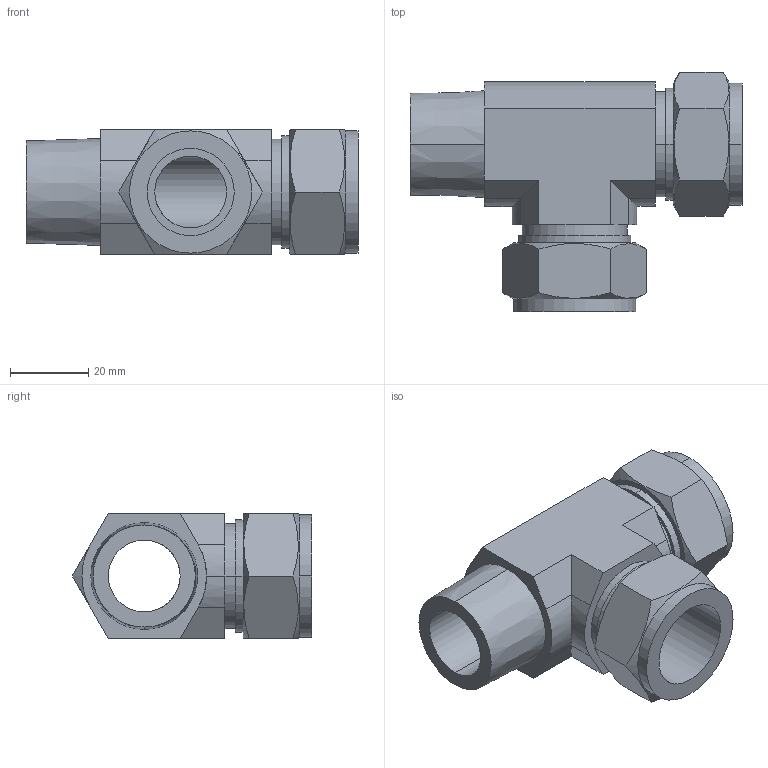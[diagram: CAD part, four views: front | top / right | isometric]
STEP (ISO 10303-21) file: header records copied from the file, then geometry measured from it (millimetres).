
FILE_DESCRIPTION (( 'STEP AP203' ), '1' );
FILE_NAME ('DTK 14-12 SS.STEP', '2009-09-08T10:03:33', ( ' ' ), ( '' ), 'SwSTEP 2.0', 'SolidWorks 2008', '' );
FILE_SCHEMA (( 'CONFIG_CONTROL_DESIGN' ));
Length unit declared in the file: millimetre
Products named in the file (1): DTK 14-12 SS
Bounding box: 84.7 x 61.03 x 31.8 mm (x, y, z)
Volume: 50644.9 mm3; surface area: 20842 mm2
Topology: 1 solids, 1 shells, 73 faces, 181 edges, 118 vertices
Faces by surface type: plane 36, cylinder 27, cone 10
Entity records: 2475 total; most frequent: CARTESIAN_POINT 682, ORIENTED_EDGE 362, DIRECTION 345, EDGE_CURVE 181, AXIS2_PLACEMENT_3D 129, VERTEX_POINT 118, LINE 87, VECTOR 87
